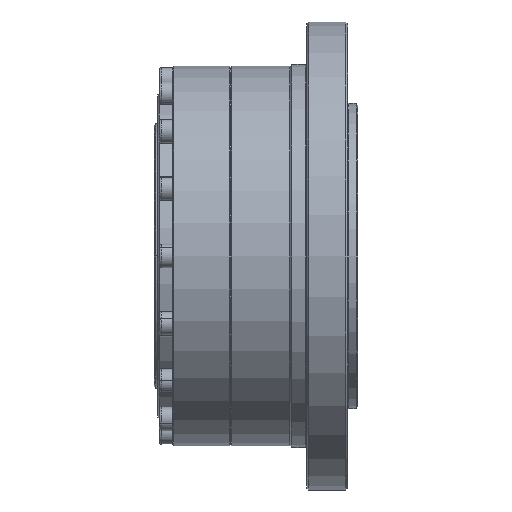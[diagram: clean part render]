
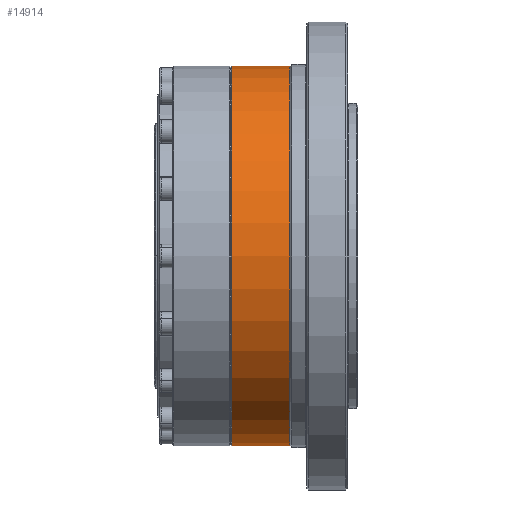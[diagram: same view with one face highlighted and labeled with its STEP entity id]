
A CAD part, front view. The second image highlights one B-rep face of the part: STEP entity #14914.
In plain terms, the highlighted cylindrical face has radius 56 mm (diameter 112 mm), a partial arc.
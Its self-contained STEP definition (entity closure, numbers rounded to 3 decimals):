
#159 = VERTEX_POINT ( 'NONE', #4039 ) ;
#287 = EDGE_CURVE ( 'NONE', #159, #19933, #22705, .T. ) ;
#320 = DIRECTION ( 'NONE',  ( 1., 0., 0. ) ) ;
#2552 = DIRECTION ( 'NONE',  ( 1., 0., 0. ) ) ;
#2580 = CARTESIAN_POINT ( 'NONE',  ( 20., 0., -56. ) ) ;
#3803 = VERTEX_POINT ( 'NONE', #25616 ) ;
#4039 = CARTESIAN_POINT ( 'NONE',  ( 20., 0., 56. ) ) ;
#5406 = DIRECTION ( 'NONE',  ( 1., 0., 0. ) ) ;
#6521 = DIRECTION ( 'NONE',  ( 1., 0., 0. ) ) ;
#7902 = LINE ( 'NONE', #22788, #18653 ) ;
#8669 = LINE ( 'NONE', #19598, #10608 ) ;
#10090 = AXIS2_PLACEMENT_3D ( 'NONE', #25631, #2552, #16680 ) ;
#10502 = DIRECTION ( 'NONE',  ( 0., 0., -1. ) ) ;
#10526 = CARTESIAN_POINT ( 'NONE',  ( 2.8, 0., 0. ) ) ;
#10608 = VECTOR ( 'NONE', #5406, 1000. ) ;
#11352 = ORIENTED_EDGE ( 'NONE', *, *, #14165, .T. ) ;
#12590 = DIRECTION ( 'NONE',  ( 0., 0., -1. ) ) ;
#13038 = ORIENTED_EDGE ( 'NONE', *, *, #287, .F. ) ;
#14165 = EDGE_CURVE ( 'NONE', #3803, #24571, #22720, .T. ) ;
#14914 = ADVANCED_FACE ( 'NONE', ( #25526 ), #24882, .T. ) ;
#15876 = AXIS2_PLACEMENT_3D ( 'NONE', #10526, #24716, #12590 ) ;
#16680 = DIRECTION ( 'NONE',  ( 0., 0., -1. ) ) ;
#16956 = EDGE_LOOP ( 'NONE', ( #25995, #11352, #17332, #13038 ) ) ;
#17332 = ORIENTED_EDGE ( 'NONE', *, *, #23951, .T. ) ;
#18653 = VECTOR ( 'NONE', #6521, 1000. ) ;
#19598 = CARTESIAN_POINT ( 'NONE',  ( 47.18, 0., -56. ) ) ;
#19883 = EDGE_CURVE ( 'NONE', #3803, #159, #7902, .T. ) ;
#19933 = VERTEX_POINT ( 'NONE', #2580 ) ;
#22512 = AXIS2_PLACEMENT_3D ( 'NONE', #22646, #320, #10502 ) ;
#22646 = CARTESIAN_POINT ( 'NONE',  ( 47.18, 0., 0. ) ) ;
#22705 = CIRCLE ( 'NONE', #10090, 56. ) ;
#22720 = CIRCLE ( 'NONE', #15876, 56. ) ;
#22788 = CARTESIAN_POINT ( 'NONE',  ( 47.18, 0., 56. ) ) ;
#23951 = EDGE_CURVE ( 'NONE', #24571, #19933, #8669, .T. ) ;
#24571 = VERTEX_POINT ( 'NONE', #25219 ) ;
#24716 = DIRECTION ( 'NONE',  ( 1., 0., 0. ) ) ;
#24882 = CYLINDRICAL_SURFACE ( 'NONE', #22512, 56. ) ;
#25219 = CARTESIAN_POINT ( 'NONE',  ( 2.8, 0., -56. ) ) ;
#25526 = FACE_OUTER_BOUND ( 'NONE', #16956, .T. ) ;
#25616 = CARTESIAN_POINT ( 'NONE',  ( 2.8, 0., 56. ) ) ;
#25631 = CARTESIAN_POINT ( 'NONE',  ( 20., 0., 0. ) ) ;
#25995 = ORIENTED_EDGE ( 'NONE', *, *, #19883, .F. ) ;
